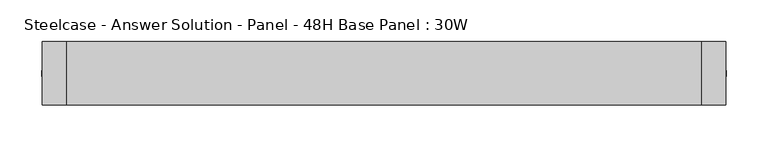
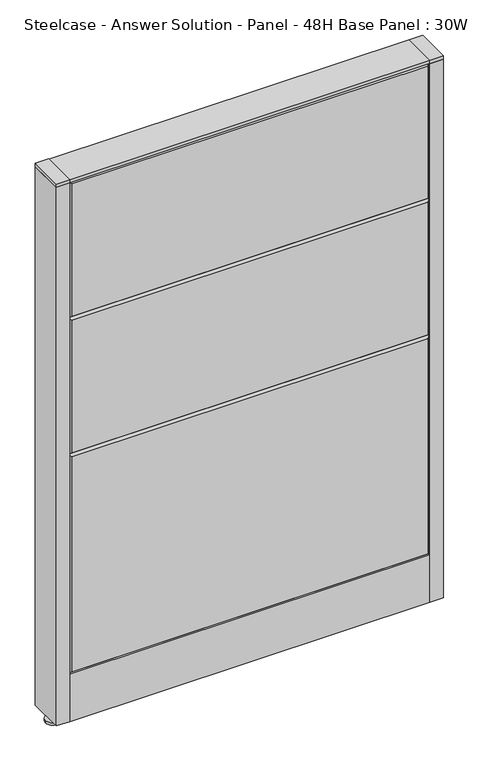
"""IFC4 building model written with IfcOpenShell, lengths in millimetres: furniture geometry, Steelcase - Answer Solution - Panel - 48H Base Panel : 30W."""

from ifc_helpers import new_model, si_unit, point, frame, frame_2d, origin, place, context, project, spatial, polyline, circle_curve, trimmed, segment, composite_curve, outline, extrude, faceted_brep, source, transform, mapped, element, save


def steelcase_answer_solution_panel_48h_base_panel_30w_ea8de05a(model_context):
    return source(origin(), model_context, "Body", "SolidModel", [
        extrude(outline(composite_curve([segment(trimmed(circle_curve(frame_2d((395.224, 0.0320214)), 5.08), [point((400.304, 0.0320214))], [point((390.144, 0.0320214))], False, "CARTESIAN"), True, "CONTINUOUS"), segment(trimmed(circle_curve(frame_2d((395.224, 0.0320214)), 5.08), [point((390.144, 0.0320214))], [point((400.304, 0.0320214))], False, "CARTESIAN"), True, "CONTINUOUS")], self_intersect=False)), frame((0.0, 0.0, 5.0799671), z_axis=(0.0, 0.0, 1.0), x_axis=(1.0, 0.0, 0.0)), (0.0, 0.0, 1.0), 10.414),
        extrude(outline(composite_curve([segment(trimmed(circle_curve(frame_2d((395.224, 0.0320214)), 15.24), [point((410.464, 0.0320214))], [point((379.984, 0.0320214))], False, "CARTESIAN"), True, "CONTINUOUS"), segment(trimmed(circle_curve(frame_2d((395.224, 0.0320214)), 15.24), [point((379.984, 0.0320214))], [point((410.464, 0.0320214))], False, "CARTESIAN"), True, "CONTINUOUS")], self_intersect=False)), frame((0.0, 0.0, -3.29e-05), z_axis=(0.0, 0.0, 1.0), x_axis=(1.0, 0.0, 0.0)), (0.0, 0.0, 1.0), 5.08),
        extrude(outline(polyline([(409.575, 38.1320408), (409.575, -38.0679592), (381.0, -38.0679592), (381.0, 38.1320408), (409.575, 38.1320408)])), frame((0.0, 0.0, 1218.2348), z_axis=(0.0, 0.0, 1.0), x_axis=(1.0, 0.0, 0.0)), (0.0, 0.0, 1.0), 7.3151671),
        extrude(outline(polyline([(409.575, 38.1320408), (409.575, -38.0679592), (381.0, -38.0679592), (381.0, 38.1320408), (409.575, 38.1320408)])), frame((0.0, 0.0, 15.4939671), z_axis=(0.0, 0.0, 1.0), x_axis=(1.0, 0.0, 0.0)), (0.0, 0.0, 1.0), 1202.7408329),
        extrude(outline(composite_curve([segment(trimmed(circle_curve(frame_2d((-395.224, 0.0320214)), 5.08), [point((-400.304, 0.0320214))], [point((-390.144, 0.0320214))], False, "CARTESIAN"), True, "CONTINUOUS"), segment(trimmed(circle_curve(frame_2d((-395.224, 0.0320214)), 5.08), [point((-390.144, 0.0320214))], [point((-400.304, 0.0320214))], False, "CARTESIAN"), True, "CONTINUOUS")], self_intersect=False)), frame((0.0, 0.0, 5.0799671), z_axis=(0.0, 0.0, 1.0), x_axis=(1.0, 0.0, 0.0)), (0.0, 0.0, 1.0), 10.414),
        extrude(outline(composite_curve([segment(trimmed(circle_curve(frame_2d((-395.224, 0.0320214)), 15.24), [point((-410.464, 0.0320214))], [point((-379.984, 0.0320214))], False, "CARTESIAN"), True, "CONTINUOUS"), segment(trimmed(circle_curve(frame_2d((-395.224, 0.0320214)), 15.24), [point((-379.984, 0.0320214))], [point((-410.464, 0.0320214))], False, "CARTESIAN"), True, "CONTINUOUS")], self_intersect=False)), frame((0.0, 0.0, -3.29e-05), z_axis=(0.0, 0.0, 1.0), x_axis=(1.0, 0.0, 0.0)), (0.0, 0.0, 1.0), 5.08),
        extrude(outline(polyline([(-409.575, 38.1320408), (-381.0, 38.1320408), (-381.0, -38.0679592), (-409.575, -38.0679592), (-409.575, 38.1320408)])), frame((0.0, 0.0, 1218.2348), z_axis=(0.0, 0.0, 1.0), x_axis=(1.0, 0.0, 0.0)), (0.0, 0.0, 1.0), 7.3151671),
        extrude(outline(polyline([(-409.575, 38.1320408), (-381.0, 38.1320408), (-381.0, -38.0679592), (-409.575, -38.0679592), (-409.575, 38.1320408)])), frame((0.0, 0.0, 15.4939671), z_axis=(0.0, 0.0, 1.0), x_axis=(1.0, 0.0, 0.0)), (0.0, 0.0, 1.0), 1202.7408329),
        faceted_brep([(-376.174, 38.1635011, 1214.374), (376.174, 38.1635011, 1214.374), (376.174, 38.1635011, 919.226), (-376.174, 38.1635011, 919.226), (-381.0, 33.3375011, 1219.2), (-381.0, 33.3375011, 914.4), (381.0, 33.3375011, 914.4), (381.0, 33.3375011, 1219.2)], [[[0, 1, 2, 3]], [[4, 5, 6, 7]], [[4, 7, 1, 0]], [[7, 6, 2, 1]], [[6, 5, 3, 2]], [[5, 4, 0, 3]]]),
        faceted_brep([(-376.174, 38.1635011, 909.574), (376.174, 38.1635011, 909.574), (376.174, 38.1635011, 614.426), (-376.174, 38.1635011, 614.426), (-381.0, 33.3375011, 914.4), (-381.0, 33.3375011, 609.6), (381.0, 33.3375011, 609.6), (381.0, 33.3375011, 914.4)], [[[0, 1, 2, 3]], [[4, 5, 6, 7]], [[4, 7, 1, 0]], [[7, 6, 2, 1]], [[6, 5, 3, 2]], [[5, 4, 0, 3]]]),
        faceted_brep([(-376.174, 38.1635011, 604.774), (376.174, 38.1635011, 604.774), (376.174, 38.1635011, 125.476), (-376.174, 38.1635011, 125.476), (-381.0, 33.3375011, 609.6), (-381.0, 33.3375011, 120.65), (381.0, 33.3375011, 120.65), (381.0, 33.3375011, 609.6)], [[[0, 1, 2, 3]], [[4, 5, 6, 7]], [[4, 7, 1, 0]], [[7, 6, 2, 1]], [[6, 5, 3, 2]], [[5, 4, 0, 3]]]),
        faceted_brep([(376.174, -38.1635011, 1214.374), (-376.174, -38.1635011, 1214.374), (-376.174, -38.1635011, 919.226), (376.174, -38.1635011, 919.226), (381.0, -33.3375011, 1219.2), (381.0, -33.3375011, 914.4), (-381.0, -33.3375011, 914.4), (-381.0, -33.3375011, 1219.2)], [[[0, 1, 2, 3]], [[4, 5, 6, 7]], [[4, 7, 1, 0]], [[7, 6, 2, 1]], [[6, 5, 3, 2]], [[5, 4, 0, 3]]]),
        faceted_brep([(376.174, -38.1635011, 909.574), (-376.174, -38.1635011, 909.574), (-376.174, -38.1635011, 614.426), (376.174, -38.1635011, 614.426), (381.0, -33.3375011, 914.4), (381.0, -33.3375011, 609.6), (-381.0, -33.3375011, 609.6), (-381.0, -33.3375011, 914.4)], [[[0, 1, 2, 3]], [[4, 5, 6, 7]], [[4, 7, 1, 0]], [[7, 6, 2, 1]], [[6, 5, 3, 2]], [[5, 4, 0, 3]]]),
        faceted_brep([(376.174, -38.1635011, 604.774), (-376.174, -38.1635011, 604.774), (-376.174, -38.1635011, 125.476), (376.174, -38.1635011, 125.476), (381.0, -33.3375011, 609.6), (381.0, -33.3375011, 120.65), (-381.0, -33.3375011, 120.65), (-381.0, -33.3375011, 609.6)], [[[0, 1, 2, 3]], [[4, 5, 6, 7]], [[4, 7, 1, 0]], [[7, 6, 2, 1]], [[6, 5, 3, 2]], [[5, 4, 0, 3]]]),
        extrude(outline(polyline([(381.0, 38.1000194), (381.0, -38.1000194), (-381.0, -38.1000194), (-381.0, 38.1000194), (381.0, 38.1000194)])), frame((0.0, 0.0, 1219.2), z_axis=(0.0, 0.0, 1.0), x_axis=(1.0, 0.0, 0.0)), (0.0, 0.0, 1.0), 6.35),
        extrude(outline(polyline([(25.4000011, 119.8575157), (25.4000011, 120.65), (38.1000194, 120.65), (38.1000194, 15.494), (37.3075215, 15.494), (37.3075215, 119.8575157), (25.4000011, 119.8575157)])), frame((-381.0, 0.0, 0.0), z_axis=(1.0, 0.0, 0.0), x_axis=(0.0, 1.0, 0.0)), (0.0, 0.0, 1.0), 762.0),
        extrude(outline(polyline([(-25.4000011, 119.8575157), (-37.3075215, 119.8575157), (-37.3075215, 15.494), (-38.1000194, 15.494), (-38.1000194, 120.65), (-25.4000011, 120.65), (-25.4000011, 119.8575157)])), frame((-381.0, 0.0, 0.0), z_axis=(1.0, 0.0, 0.0), x_axis=(0.0, 1.0, 0.0)), (0.0, 0.0, 1.0), 762.0),
    ])


if __name__ == "__main__":
    model = new_model("IFC4")
    model_context = context("Model", 3, world=origin())
    ifc_project = project(units=[si_unit("LENGTHUNIT", "METRE", prefix="MILLI")], contexts=[model_context])
    site = spatial("IfcSite", under=ifc_project)
    building = spatial("IfcBuilding", under=site)
    placement = place(None, origin())
    steelcase_answer_solution_panel_48h_base_panel_30w_shape = steelcase_answer_solution_panel_48h_base_panel_30w_ea8de05a(model_context)
    element("IfcFurniture", 1, ObjectType="Steelcase - Answer Solution - Panel - 48H Base Panel : 30W", at=placement, inside=building, context=model_context, shape_type="MappedRepresentation", body=[
        mapped(steelcase_answer_solution_panel_48h_base_panel_30w_shape, transform((0.0, 0.0, 0.0), x_axis=(1.0, 0.0, 0.0), y_axis=(0.0, 1.0, 0.0), z_axis=(0.0, 0.0, 1.0))),
    ])
    save(model, "model.ifc")
